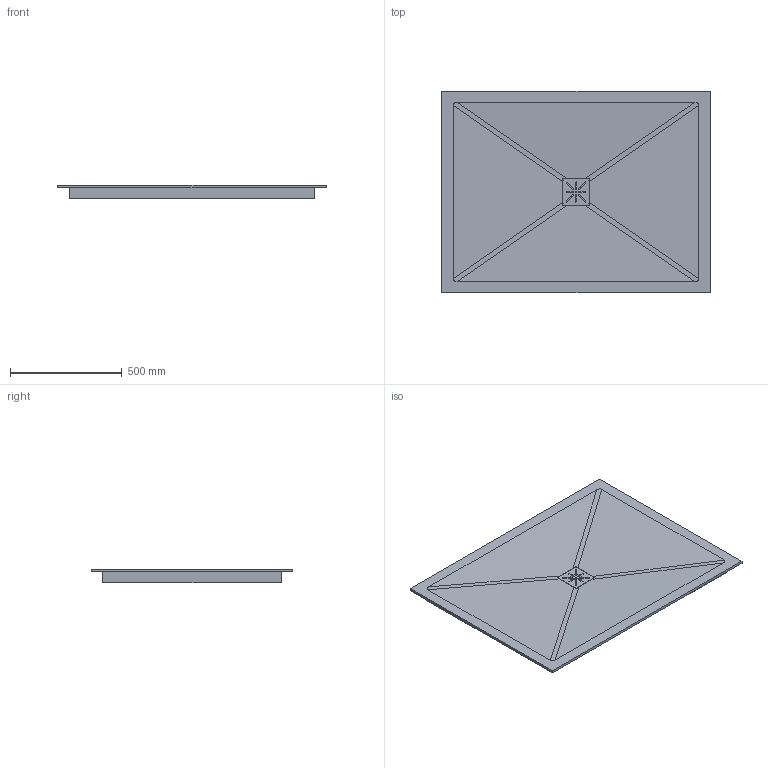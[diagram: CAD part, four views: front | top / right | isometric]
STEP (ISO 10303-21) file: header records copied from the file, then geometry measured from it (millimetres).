
FILE_DESCRIPTION (( 'STEP AP214' ), '1' );
FILE_NAME ('FOSTER 120x90.STEP', '2024-05-14T07:33:30', ( '' ), ( '' ), 'SwSTEP 2.0', 'SolidWorks 2021', '' );
FILE_SCHEMA (( 'AUTOMOTIVE_DESIGN' ));
Length unit declared in the file: millimetre
Products named in the file (3): None_2; FOSTER 120x90; None
Assembly tree (2 placements, depth 2):
  FOSTER 120x90
    None
    None_2
Bounding box: 1200 x 900 x 62 mm (x, y, z)
Volume: 15366847.5 mm3; surface area: 2795634.6 mm2
Topology: 3 solids, 4 shells, 118 faces, 322 edges, 206 vertices
Faces by surface type: plane 68, cylinder 43, bspline 7
Full cylindrical faces by diameter (mm): 8 x1, 52 x1
Entity records: 4332 total; most frequent: CARTESIAN_POINT 1214, ORIENTED_EDGE 620, DIRECTION 615, EDGE_CURVE 315, VECTOR 219, LINE 219, VERTEX_POINT 205, AXIS2_PLACEMENT_3D 198
